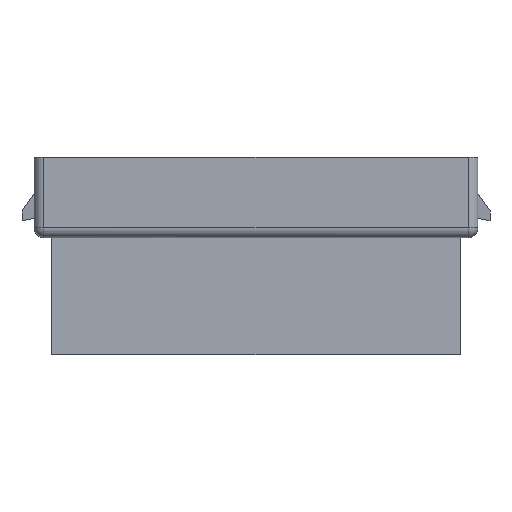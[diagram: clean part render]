
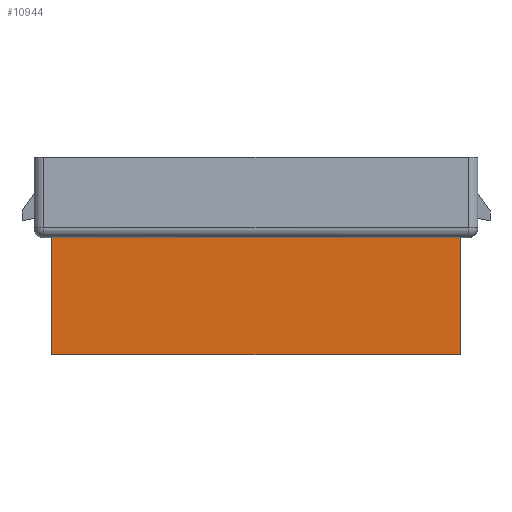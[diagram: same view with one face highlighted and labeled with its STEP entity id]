
A CAD part, front view. The second image highlights one B-rep face of the part: STEP entity #10944.
In plain terms, the highlighted planar face has unit normal (0, -1, 0).
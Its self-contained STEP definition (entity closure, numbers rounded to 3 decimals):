
#1188=CARTESIAN_POINT('Vertex',(-8.375,0.45,0.)) ;
#1202=CARTESIAN_POINT('Vertex',(8.375,0.45,0.)) ;
#1205=CARTESIAN_POINT('Line Origine',(0.,0.45,0.)) ;
#2173=CARTESIAN_POINT('Vertex',(8.375,0.45,4.8)) ;
#2176=CARTESIAN_POINT('Line Origine',(8.375,0.45,2.4)) ;
#3661=CARTESIAN_POINT('Vertex',(-8.375,0.45,4.8)) ;
#3664=CARTESIAN_POINT('Line Origine',(0.,0.45,4.8)) ;
#10928=CARTESIAN_POINT('Axis2P3D Location',(0.,0.45,4.8)) ;
#10933=CARTESIAN_POINT('Line Origine',(-8.375,0.45,2.4)) ;
#1206=DIRECTION('Vector Direction',(1.,0.,0.)) ;
#2177=DIRECTION('Vector Direction',(0.,0.,-1.)) ;
#3665=DIRECTION('Vector Direction',(1.,0.,0.)) ;
#10929=DIRECTION('Axis2P3D Direction',(0.,-1.,0.)) ;
#10930=DIRECTION('Axis2P3D XDirection',(0.,0.,-1.)) ;
#10934=DIRECTION('Vector Direction',(0.,0.,-1.)) ;
#10931=AXIS2_PLACEMENT_3D('Plane Axis2P3D',#10928,#10929,#10930) ;
#10939=ORIENTED_EDGE('',*,*,#10937,.T.) ;
#10940=ORIENTED_EDGE('',*,*,#1209,.T.) ;
#10941=ORIENTED_EDGE('',*,*,#2180,.F.) ;
#10942=ORIENTED_EDGE('',*,*,#3668,.F.) ;
#1207=VECTOR('Line Direction',#1206,1.) ;
#2178=VECTOR('Line Direction',#2177,1.) ;
#3666=VECTOR('Line Direction',#3665,1.) ;
#10935=VECTOR('Line Direction',#10934,1.) ;
#10944=ADVANCED_FACE('\X2\96F64EF651E04F554F53\X0\',(#10943),#10932,.T.) ;
#1209=EDGE_CURVE('',#1189,#1203,#1208,.T.) ;
#2180=EDGE_CURVE('',#2174,#1203,#2179,.T.) ;
#3668=EDGE_CURVE('',#3662,#2174,#3667,.T.) ;
#10937=EDGE_CURVE('',#3662,#1189,#10936,.T.) ;
#10938=EDGE_LOOP('',(#10939,#10940,#10941,#10942)) ;
#10943=FACE_OUTER_BOUND('',#10938,.T.) ;
#1208=LINE('Line',#1205,#1207) ;
#2179=LINE('Line',#2176,#2178) ;
#3667=LINE('Line',#3664,#3666) ;
#10936=LINE('Line',#10933,#10935) ;
#10932=PLANE('Plane',#10931) ;
#1189=VERTEX_POINT('',#1188) ;
#1203=VERTEX_POINT('',#1202) ;
#2174=VERTEX_POINT('',#2173) ;
#3662=VERTEX_POINT('',#3661) ;
